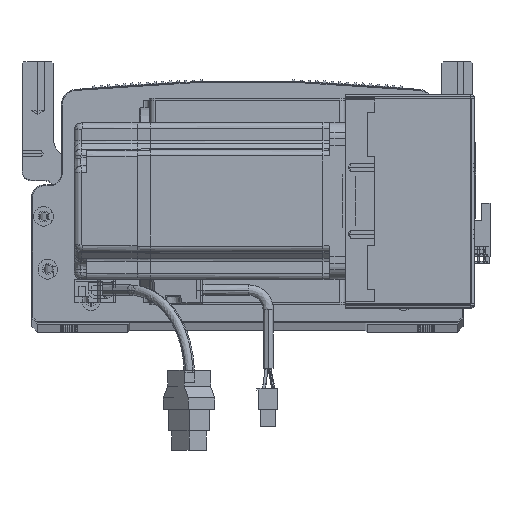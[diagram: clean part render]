
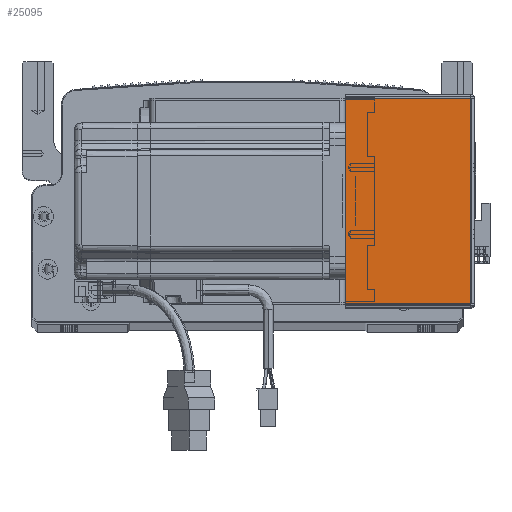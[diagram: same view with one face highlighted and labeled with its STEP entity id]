
A CAD part, top view. The second image highlights one B-rep face of the part: STEP entity #25095.
In plain terms, the highlighted planar face has unit normal (0, 0, 1) as drawn and (0, 0, -1) by its records, which use the part's own axes.
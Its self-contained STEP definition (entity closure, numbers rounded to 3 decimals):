
#218 = VERTEX_POINT ( 'NONE', #91268 ) ;
#3444 = LINE ( 'NONE', #17494, #4647 ) ;
#4647 = VECTOR ( 'NONE', #76158, 1000. ) ;
#6149 = ORIENTED_EDGE ( 'NONE', *, *, #90379, .T. ) ;
#6470 = DIRECTION ( 'NONE',  ( 0., -1., 0. ) ) ;
#7611 = VECTOR ( 'NONE', #82199, 1000. ) ;
#7756 = LINE ( 'NONE', #41926, #24987 ) ;
#8717 = FACE_OUTER_BOUND ( 'NONE', #13554, .T. ) ;
#13554 = EDGE_LOOP ( 'NONE', ( #38503, #6149, #32625, #90339 ) ) ;
#16649 = EDGE_CURVE ( 'NONE', #218, #35235, #61489, .T. ) ;
#17494 = CARTESIAN_POINT ( 'NONE',  ( 0., 105.293, -205.5 ) ) ;
#20341 = VECTOR ( 'NONE', #6470, 1000. ) ;
#22476 = CARTESIAN_POINT ( 'NONE',  ( 0.737, 105.293, -205.5 ) ) ;
#22969 = CARTESIAN_POINT ( 'NONE',  ( 0., 0.707, -205.5 ) ) ;
#24987 = VECTOR ( 'NONE', #41296, 1000. ) ;
#25095 = ADVANCED_FACE ( 'NONE', ( #8717 ), #85458, .F. ) ;
#27269 = LINE ( 'NONE', #94890, #20341 ) ;
#31928 = AXIS2_PLACEMENT_3D ( 'NONE', #77491, #40963, #92212 ) ;
#32625 = ORIENTED_EDGE ( 'NONE', *, *, #39853, .T. ) ;
#34315 = CARTESIAN_POINT ( 'NONE',  ( 64.5, 105.293, -205.5 ) ) ;
#35235 = VERTEX_POINT ( 'NONE', #80444 ) ;
#35324 = VERTEX_POINT ( 'NONE', #22476 ) ;
#36425 = VERTEX_POINT ( 'NONE', #34315 ) ;
#38503 = ORIENTED_EDGE ( 'NONE', *, *, #80869, .F. ) ;
#39853 = EDGE_CURVE ( 'NONE', #36425, #35235, #7756, .T. ) ;
#40963 = DIRECTION ( 'NONE',  ( 0., 0., 1. ) ) ;
#41296 = DIRECTION ( 'NONE',  ( 0., -1., 0. ) ) ;
#41926 = CARTESIAN_POINT ( 'NONE',  ( 64.5, 0., -205.5 ) ) ;
#61489 = LINE ( 'NONE', #22969, #7611 ) ;
#76158 = DIRECTION ( 'NONE',  ( 1., 0., 0. ) ) ;
#77491 = CARTESIAN_POINT ( 'NONE',  ( 0., 0., -205.5 ) ) ;
#80444 = CARTESIAN_POINT ( 'NONE',  ( 64.5, 0.707, -205.5 ) ) ;
#80869 = EDGE_CURVE ( 'NONE', #35324, #218, #27269, .T. ) ;
#82199 = DIRECTION ( 'NONE',  ( 1., 0., 0. ) ) ;
#85458 = PLANE ( 'NONE',  #31928 ) ;
#90339 = ORIENTED_EDGE ( 'NONE', *, *, #16649, .F. ) ;
#90379 = EDGE_CURVE ( 'NONE', #35324, #36425, #3444, .T. ) ;
#91268 = CARTESIAN_POINT ( 'NONE',  ( 0.737, 0.707, -205.5 ) ) ;
#92212 = DIRECTION ( 'NONE',  ( 1., 0., 0. ) ) ;
#94890 = CARTESIAN_POINT ( 'NONE',  ( 0.737, 0., -205.5 ) ) ;
